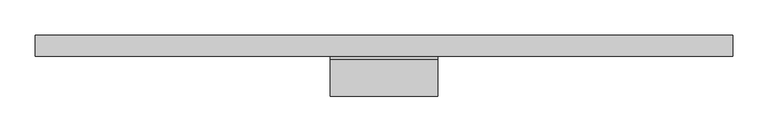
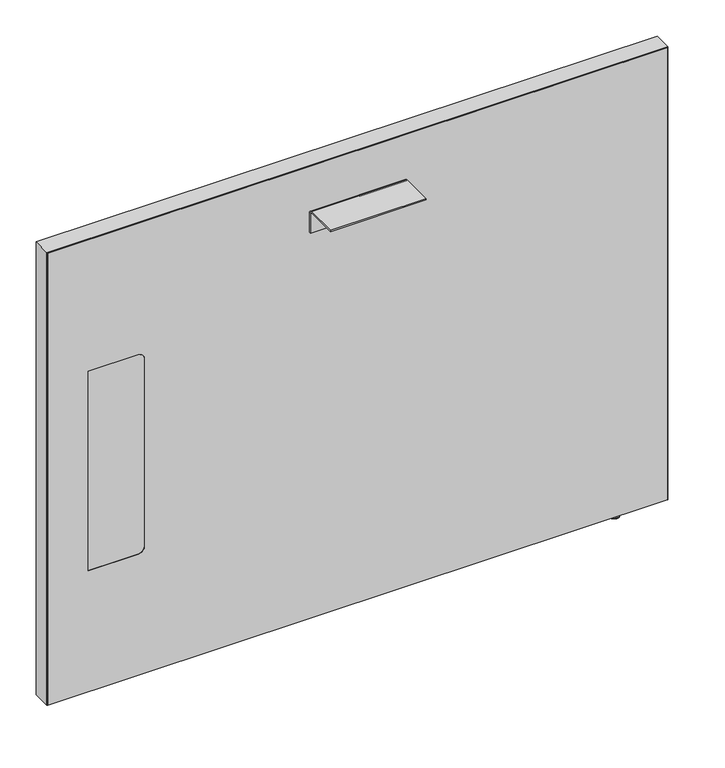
"""IFC4 building model written with IfcOpenShell, lengths in millimetres: furniture geometry, Steelcase - Answer Solution - Boundary Screen - Straight - Single Sided : 30H x 39W."""

from ifc_helpers import new_model, si_unit, point, frame, frame_2d, origin, place, context, project, spatial, polyline, circle_curve, ellipse_curve, trimmed, segment, composite_curve, outline, extrude, source, transform, mapped, element, save
from ifc_brep_helpers import plane_surface, cylinder_surface, revolved_surface, advanced_brep


def furniture_c40efeba(model_context):
    return source(origin(), model_context, "Body", "SolidModel", [
        extrude(outline(composite_curve([segment(polyline([(-86.8398151, 696.4680019), (-86.8398151, 698.5), (-34.9450855, 698.5)]), True, "CONTINUOUS"), segment(trimmed(circle_curve(frame_2d((-34.9450855, 693.2447477)), 5.2552523), [point((-34.9450855, 698.5))], [point((-29.6898332, 693.2447477))], False, "CARTESIAN"), True, "CONTINUOUS"), segment(polyline([(-29.6898332, 693.2447477), (-29.6898332, 660.4), (-31.7218162, 660.4), (-31.7218162, 693.0058743)]), True, "CONTINUOUS"), segment(trimmed(circle_curve(frame_2d((-35.1839438, 693.0058743)), 3.4621276), [point((-31.7218162, 693.0058743))], [point((-35.1839438, 696.4680019))], True, "CARTESIAN"), True, "CONTINUOUS"), segment(polyline([(-35.1839438, 696.4680019), (-86.8398151, 696.4680019)]), True, "CONTINUOUS")], self_intersect=False)), frame((-227.3808593, 0.0, 0.0), z_axis=(1.0, 0.0, 0.0), x_axis=(0.0, 1.0, 0.0)), (0.0, 0.0, 1.0), 152.4000969),
        advanced_brep(
        [(266.9286488, -23.7588726, 9.9059849), (266.9286488, -5.9309607, 9.9059849), (266.9286488, -14.8449166, 9.9059849), (266.9286488, -23.7588726, 2.9673238), (266.9286488, -5.9309607, 2.9673238), (266.9286488, -22.7915354, 2.9673238), (266.9286488, -6.8982978, 2.9673238), (266.9286488, -22.7915354, 1.6569081), (266.9286488, -6.8982978, 1.6569081), (266.9286488, -21.1346274, 0.0), (266.9286488, -8.5552059, 0.0), (266.9286488, -14.8449166, 0.0)],
        [
            (0, 1, circle_curve(frame((266.9286488, -14.8449166, 9.9059849), z_axis=(0.0, 0.0, 1.0), x_axis=(0.0, 1.0, 0.0)), 8.913956)),
            (1, 2),
            (2, 0),
            (1, 0, circle_curve(frame((266.9286488, -14.8449166, 9.9059849), z_axis=(0.0, 0.0, 1.0), x_axis=(0.0, 1.0, 0.0)), 8.913956)),
            (3, 4, circle_curve(frame((266.9286488, -14.8449166, 2.9673238), z_axis=(0.0, 0.0, 1.0), x_axis=(0.0, 1.0, 0.0)), 8.913956)),
            (4, 1),
            (0, 3),
            (4, 3, circle_curve(frame((266.9286488, -14.8449166, 2.9673238), z_axis=(0.0, 0.0, 1.0), x_axis=(0.0, 1.0, 0.0)), 8.913956)),
            (5, 6, circle_curve(frame((266.9286488, -14.8449166, 2.9673238), z_axis=(0.0, 0.0, 1.0), x_axis=(0.0, 1.0, 0.0)), 7.9466188)),
            (6, 4),
            (3, 5),
            (6, 5, circle_curve(frame((266.9286488, -14.8449166, 2.9673238), z_axis=(0.0, 0.0, 1.0), x_axis=(0.0, 1.0, 0.0)), 7.9466188)),
            (7, 8, circle_curve(frame((266.9286488, -14.8449166, 1.6569081), z_axis=(0.0, 0.0, 1.0), x_axis=(0.0, 1.0, 0.0)), 7.9466188)),
            (8, 6),
            (5, 7),
            (8, 7, circle_curve(frame((266.9286488, -14.8449166, 1.6569081), z_axis=(0.0, 0.0, 1.0), x_axis=(0.0, 1.0, 0.0)), 7.9466188)),
            (9, 10, circle_curve(frame((266.9286488, -14.8449166, 0.0), z_axis=(0.0, 0.0, 1.0), x_axis=(0.0, 1.0, 0.0)), 6.2897107)),
            (10, 8, circle_curve(frame((266.9286488, -8.5552059, 1.6569081), z_axis=(1.0, 0.0, 0.0), x_axis=(0.0, 1.0, 0.0)), 1.6569081)),
            (7, 9, circle_curve(frame((266.9286488, -21.1346274, 1.6569081), z_axis=(1.0, 0.0, 0.0), x_axis=(0.0, -1.0, 0.0)), 1.6569081)),
            (10, 9, circle_curve(frame((266.9286488, -14.8449166, 0.0), z_axis=(0.0, 0.0, 1.0), x_axis=(0.0, 1.0, 0.0)), 6.2897107)),
            (11, 10),
            (9, 11),
        ],
        [
            plane_surface(frame((266.9286488, -14.8449166, 9.9059849), z_axis=(0.0, 0.0, 1.0), x_axis=(0.0, 1.0, 0.0))),
            cylinder_surface(frame((266.9286488, -14.8449166, 9.9059849), z_axis=(0.0, 0.0, -1.0), x_axis=(0.0, 1.0, 0.0)), 8.913956),
            plane_surface(frame((266.9286488, -14.8449166, 2.9673238), z_axis=(0.0, 0.0, -1.0), x_axis=(0.0, 1.0, 0.0))),
            cylinder_surface(frame((266.9286488, -14.8449166, 9.9059849), z_axis=(0.0, 0.0, -1.0), x_axis=(0.0, 1.0, 0.0)), 7.9466188),
            revolved_surface(trimmed(ellipse_curve(frame((266.9286488, -8.5552059, 1.6569081), z_axis=(-1.0, 0.0, 0.0), x_axis=(0.0, 1.0, 0.0)), 1.6569081, 1.6569081), [point((266.9286488, -6.8982978, 1.6569081))], [point((266.9286488, -8.5552059, 0.0))], True, "CARTESIAN"), (266.9286488, -14.8449166, 9.9059849), (0.0, 0.0, -1.0)),
            plane_surface(frame((266.9286488, -14.8449166, 0.0), z_axis=(0.0, 0.0, -1.0), x_axis=(0.0, 1.0, 0.0))),
        ],
        [
            (0, [[1, 2, 3]]),
            (0, [[4, -3, -2]]),
            (1, [[5, 6, -1, 7]]),
            (1, [[8, -7, -4, -6]]),
            (2, [[9, 10, -5, 11]]),
            (2, [[12, -11, -8, -10]]),
            (3, [[13, 14, -9, 15]]),
            (3, [[16, -15, -12, -14]]),
            (4, [[17, 18, -13, 19]]),
            (4, [[20, -19, -16, -18]]),
            (5, [[21, -17, 22]]),
            (5, [[-22, -20, -21]]),
        ],
    ),
        advanced_brep(
        [(343.0780168, 0.0, 771.942118), (343.0780168, 0.0, 9.9059849), (-645.4902221, 0.0, 9.9059849), (-645.4902221, 0.0, 771.942118), (343.0780168, -29.6898332, 771.942118), (-645.4902221, -29.6898332, 771.942118), (-645.4902221, -29.6898332, 9.9059849), (343.0780168, -29.6898332, 9.9059849), (-501.1463873, -29.6898332, 549.6162029), (-490.9863873, -29.6898332, 539.4562029), (-490.9863873, -29.6898332, 223.9362137), (-501.1463873, -29.6898332, 213.7762137), (-580.800285, -29.6898332, 213.7762137), (-580.800285, -29.6898332, 549.6162029), (-580.800285, -29.0550397, 549.6162029), (-501.1463873, -29.0550397, 549.6162029), (-580.800285, -29.0550397, 213.7762137), (-501.1463873, -29.0550397, 213.7762137), (-490.9863873, -29.0550397, 223.9362137), (-490.9863873, -29.0550397, 539.4562029)],
        [
            (0, 1),
            (1, 2),
            (2, 3),
            (3, 0),
            (4, 5),
            (5, 6),
            (6, 7),
            (7, 4),
            (8, 9, circle_curve(frame((-501.1463873, -29.6898332, 539.4562029), z_axis=(0.0, 1.0, 0.0), x_axis=(0.0, 0.0, 1.0)), 10.16)),
            (9, 10),
            (10, 11, circle_curve(frame((-501.1463873, -29.6898332, 223.9362137), z_axis=(0.0, 1.0, 0.0), x_axis=(0.0, 0.0, 1.0)), 10.16)),
            (11, 12),
            (12, 13),
            (13, 8),
            (0, 4),
            (7, 1),
            (6, 2),
            (5, 3),
            (13, 14),
            (14, 15),
            (15, 8),
            (12, 16),
            (16, 14),
            (11, 17),
            (17, 16),
            (10, 18),
            (18, 17, circle_curve(frame((-501.1463873, -29.0550397, 223.9362137), z_axis=(0.0, 1.0, 0.0), x_axis=(0.0, 0.0, 1.0)), 10.16)),
            (9, 19),
            (19, 18),
            (15, 19, circle_curve(frame((-501.1463873, -29.0550397, 539.4562029), z_axis=(0.0, 1.0, 0.0), x_axis=(0.0, 0.0, 1.0)), 10.16)),
        ],
        [
            plane_surface(frame((343.0780168, 0.0, 771.942118), z_axis=(0.0, 1.0, 0.0), x_axis=(0.0, 0.0, -1.0))),
            plane_surface(frame((343.0780168, -29.6898332, 771.942118), z_axis=(0.0, -1.0, 0.0), x_axis=(0.0, 0.0, 1.0))),
            plane_surface(frame((343.0780168, 0.0, 771.942118), z_axis=(1.0, 0.0, 0.0), x_axis=(0.0, -1.0, 0.0))),
            plane_surface(frame((343.0780168, 0.0, 9.9059849), z_axis=(0.0, 0.0, -1.0), x_axis=(0.0, -1.0, 0.0))),
            plane_surface(frame((-645.4902221, 0.0, 9.9059849), z_axis=(-1.0, 0.0, 0.0), x_axis=(0.0, -1.0, 0.0))),
            plane_surface(frame((-645.4902221, 0.0, 771.942118), z_axis=(0.0, 0.0, 1.0), x_axis=(0.0, -1.0, 0.0))),
            plane_surface(frame((-501.1463873, 0.0, 549.6162029), z_axis=(0.0, 0.0, -1.0), x_axis=(0.0, -1.0, 0.0))),
            plane_surface(frame((-580.800285, 0.0, 549.6162029), z_axis=(1.0, 0.0, 0.0), x_axis=(0.0, -1.0, 0.0))),
            plane_surface(frame((-580.800285, 0.0, 213.7762137), z_axis=(0.0, 0.0, 1.0), x_axis=(0.0, -1.0, 0.0))),
            revolved_surface(polyline([(-501.1463873, -29.6898332, 234.0962137), (-501.1463873, -29.0550397, 234.0962137)]), (-501.1463873, -29.6898332, 223.9362137), (0.0, -1.0, 0.0)),
            plane_surface(frame((-490.9863873, 0.0, 223.9362137), z_axis=(-1.0, 0.0, 0.0), x_axis=(0.0, -1.0, 0.0))),
            revolved_surface(polyline([(-501.1463873, -29.6898332, 549.6162029), (-501.1463873, -29.0550397, 549.6162029)]), (-501.1463873, -29.6898332, 539.4562029), (0.0, -1.0, 0.0)),
            plane_surface(frame((-490.9863873, -29.0550397, 629.172953), z_axis=(0.0, -1.0, 0.0), x_axis=(0.0, 0.0, 1.0))),
        ],
        [
            (0, [[1, 2, 3, 4]]),
            (1, [[5, 6, 7, 8], [9, 10, 11, 12, 13, 14]]),
            (2, [[-1, 15, -8, 16]]),
            (3, [[-2, -16, -7, 17]]),
            (4, [[-3, -17, -6, 18]]),
            (5, [[-4, -18, -5, -15]]),
            (6, [[-14, 19, 20, 21]]),
            (7, [[-13, 22, 23, -19]]),
            (8, [[-12, 24, 25, -22]]),
            (9, [[-11, 26, 27, -24]]),
            (10, [[-10, 28, 29, -26]]),
            (11, [[-9, -21, 30, -28]]),
            (12, [[-20, -23, -25, -27, -29, -30]]),
        ],
    ),
        extrude(outline(composite_curve([segment(polyline([(549.6162029, -501.1463873), (549.6162029, -580.800285), (213.7762137, -580.800285), (213.7762137, -501.1463873)]), True, "CONTINUOUS"), segment(trimmed(circle_curve(frame_2d((223.9362137, -501.1463873)), 10.16), [point((213.7762137, -501.1463873))], [point((223.9362137, -490.9863873))], False, "CARTESIAN"), True, "CONTINUOUS"), segment(polyline([(223.9362137, -490.9863873), (539.4562029, -490.9863873)]), True, "CONTINUOUS"), segment(trimmed(circle_curve(frame_2d((539.4562029, -501.1463873)), 10.16), [point((539.4562029, -490.9863873))], [point((549.6162029, -501.1463873))], False, "CARTESIAN"), True, "CONTINUOUS")], self_intersect=False)), frame((0.0, -29.6898332, 0.0), z_axis=(0.0, 1.0, 0.0), x_axis=(0.0, 0.0, 1.0)), (0.0, 0.0, 1.0), 0.6347935),
        extrude(outline(polyline([(772.922, 344.1191891), (772.922, -646.4808109), (9.9059849, -646.4808109), (9.9059849, -645.4902221), (771.942118, -645.4902221), (771.942118, 343.0780168), (9.9059849, 343.0780168), (9.9059849, 344.1191891), (772.922, 344.1191891)])), frame((0.0, -29.6898332, 0.0), z_axis=(0.0, 1.0, 0.0), x_axis=(0.0, 0.0, 1.0)), (0.0, 0.0, 1.0), 29.6898332),
    ])


if __name__ == "__main__":
    model = new_model("IFC4")
    model_context = context("Model", 3, world=origin())
    ifc_project = project(units=[si_unit("LENGTHUNIT", "METRE", prefix="MILLI")], contexts=[model_context])
    site = spatial("IfcSite", under=ifc_project)
    building = spatial("IfcBuilding", under=site)
    placement = place(None, origin())
    furniture_shape = furniture_c40efeba(model_context)
    element("IfcFurniture", 1, ObjectType="Steelcase - Answer Solution - Boundary Screen - Straight - Single Sided : 30H x 39W", at=placement, inside=building, context=model_context, shape_type="MappedRepresentation", body=[
        mapped(furniture_shape, transform((0.0, 0.0, 0.0), x_axis=(1.0, 0.0, 0.0), y_axis=(0.0, 1.0, 0.0), z_axis=(0.0, 0.0, 1.0))),
    ])
    save(model, "model.ifc")
